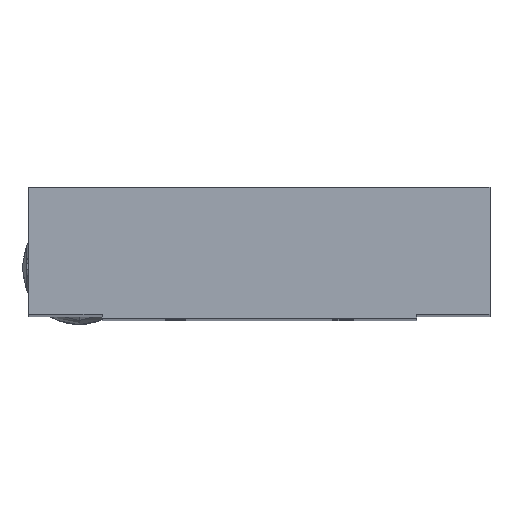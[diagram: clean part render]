
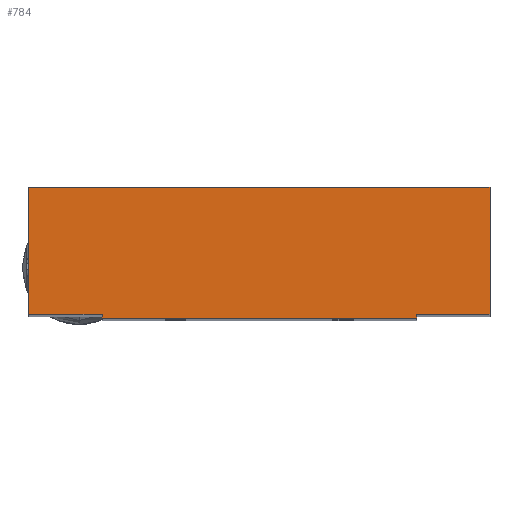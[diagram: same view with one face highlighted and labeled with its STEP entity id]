
A CAD part, top view. The second image highlights one B-rep face of the part: STEP entity #784.
In plain terms, the highlighted planar face has unit normal (0, 0, 1).
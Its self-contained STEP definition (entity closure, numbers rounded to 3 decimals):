
#185=DIRECTION('',(0.,-1.,0.));
#186=VECTOR('',#185,30.34);
#187=CARTESIAN_POINT('',(-55.,31.24,334.));
#188=LINE('',#187,#186);
#189=DIRECTION('',(-1.,0.,0.));
#190=VECTOR('',#189,110.);
#191=CARTESIAN_POINT('',(55.,31.24,334.));
#192=LINE('',#191,#190);
#193=DIRECTION('',(0.,1.,0.));
#194=VECTOR('',#193,30.34);
#195=CARTESIAN_POINT('',(55.,0.9,334.));
#196=LINE('',#195,#194);
#197=DIRECTION('',(1.,0.,0.));
#198=VECTOR('',#197,17.5);
#199=CARTESIAN_POINT('',(37.5,0.9,334.));
#200=LINE('',#199,#198);
#201=DIRECTION('',(0.,1.,0.));
#202=VECTOR('',#201,0.9);
#203=CARTESIAN_POINT('',(37.5,0.,334.));
#204=LINE('',#203,#202);
#205=DIRECTION('',(1.,0.,0.));
#206=VECTOR('',#205,75.);
#207=CARTESIAN_POINT('',(-37.5,0.,334.));
#208=LINE('',#207,#206);
#209=DIRECTION('',(0.,-1.,0.));
#210=VECTOR('',#209,0.9);
#211=CARTESIAN_POINT('',(-37.5,0.9,334.));
#212=LINE('',#211,#210);
#213=DIRECTION('',(1.,0.,0.));
#214=VECTOR('',#213,17.5);
#215=CARTESIAN_POINT('',(-55.,0.9,334.));
#216=LINE('',#215,#214);
#449=CARTESIAN_POINT('',(-55.,31.24,334.));
#450=CARTESIAN_POINT('',(-55.,0.9,334.));
#451=VERTEX_POINT('',#449);
#452=VERTEX_POINT('',#450);
#453=CARTESIAN_POINT('',(-37.5,0.9,334.));
#454=VERTEX_POINT('',#453);
#455=CARTESIAN_POINT('',(-37.5,0.,334.));
#456=VERTEX_POINT('',#455);
#457=CARTESIAN_POINT('',(37.5,0.,334.));
#458=VERTEX_POINT('',#457);
#459=CARTESIAN_POINT('',(37.5,0.9,334.));
#460=VERTEX_POINT('',#459);
#461=CARTESIAN_POINT('',(55.,0.9,334.));
#462=VERTEX_POINT('',#461);
#463=CARTESIAN_POINT('',(55.,31.24,334.));
#464=VERTEX_POINT('',#463);
#769=CARTESIAN_POINT('',(0.,0.,334.));
#770=DIRECTION('',(0.,0.,1.));
#771=DIRECTION('',(1.,0.,0.));
#772=AXIS2_PLACEMENT_3D('',#769,#770,#771);
#773=PLANE('',#772);
#774=ORIENTED_EDGE('',*,*,#605,.F.);
#775=ORIENTED_EDGE('',*,*,#620,.F.);
#776=ORIENTED_EDGE('',*,*,#634,.F.);
#777=ORIENTED_EDGE('',*,*,#648,.F.);
#778=ORIENTED_EDGE('',*,*,#662,.F.);
#779=ORIENTED_EDGE('',*,*,#676,.F.);
#780=ORIENTED_EDGE('',*,*,#750,.F.);
#781=ORIENTED_EDGE('',*,*,#763,.F.);
#782=EDGE_LOOP('',(#774,#775,#776,#777,#778,#779,#780,#781));
#783=FACE_OUTER_BOUND('',#782,.F.);
#784=ADVANCED_FACE('',(#783),#773,.T.);
#605=EDGE_CURVE('',#451,#452,#188,.T.);
#620=EDGE_CURVE('',#464,#451,#192,.T.);
#634=EDGE_CURVE('',#462,#464,#196,.T.);
#648=EDGE_CURVE('',#460,#462,#200,.T.);
#662=EDGE_CURVE('',#458,#460,#204,.T.);
#676=EDGE_CURVE('',#456,#458,#208,.T.);
#750=EDGE_CURVE('',#454,#456,#212,.T.);
#763=EDGE_CURVE('',#452,#454,#216,.T.);
